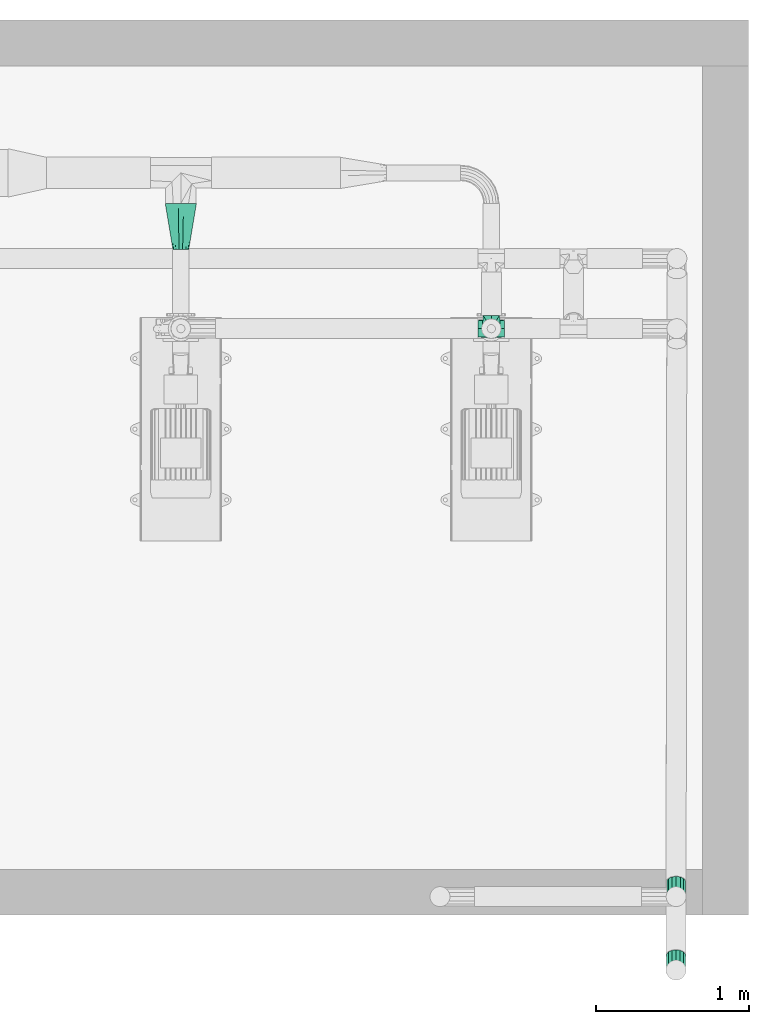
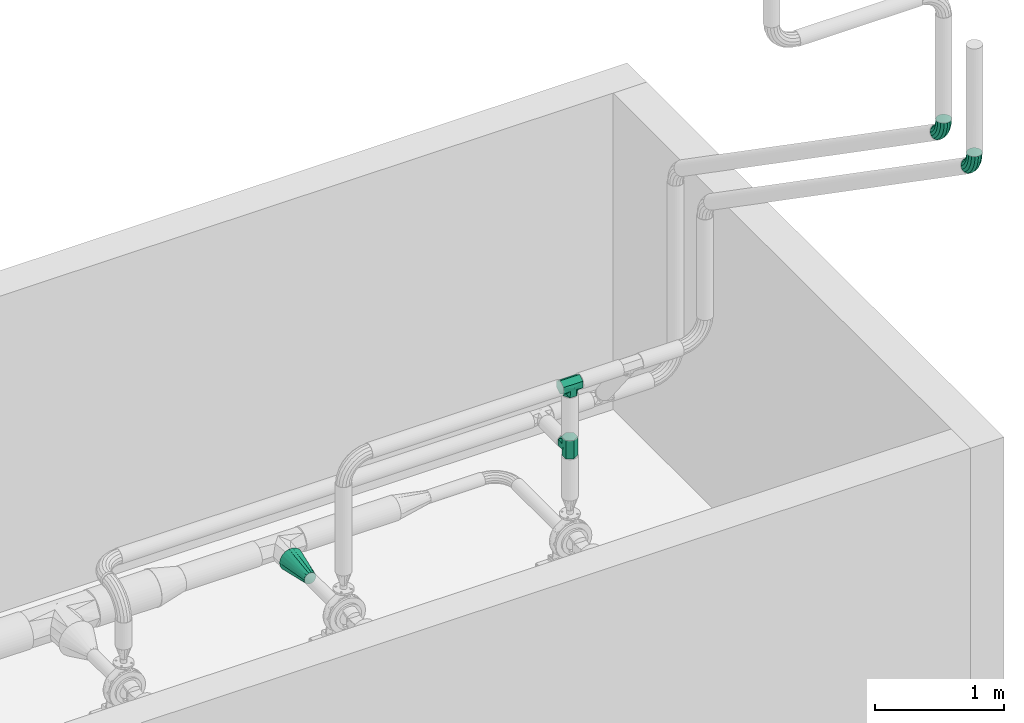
# One storey, part 9 of 12: 5 flow fittings.
"""IFC2X3 building model written with IfcOpenShell, lengths in millimetres."""

import ifcopenshell
import ifcopenshell.guid

model = None  # the IFC model being written
_history = None  # IfcOwnerHistory: only IFC2X3 demands one
_inside = {}  # id of a spatial element -> (the spatial element, [elements in it])
_under = {}  # id of a project, library or spatial element -> (it, [spatial elements below it])
_declared = {}  # id of a project -> (the project, [libraries it declares])
_typed = {}  # id of a type object -> (the type object, [elements of that type])
_made_of = {}  # id of a material, layer set ... -> (it, [elements and type objects made of it])


def new_model(schema):
    """Start an empty IFC model of exactly this schema.

    Asked for "IFC4X3", IfcOpenShell would pick the latest addendum, in which some entities
    have other attributes; the version numbers below select the first issue.
    IFC2X3 requires an IfcOwnerHistory on every rooted entity: one is made here for all.
    """
    global model, _history
    if schema == "IFC4X3":
        model = ifcopenshell.file(schema_version=(4, 3, 0, 0))
    else:
        model = ifcopenshell.file(schema=schema)
    _inside.clear()
    _under.clear()
    _declared.clear()
    _typed.clear()
    _made_of.clear()
    _history = None
    if model.schema == "IFC2X3":
        org = make("IfcOrganization", Name="unknown")
        user = make(
            "IfcPersonAndOrganization",
            ThePerson=make("IfcPerson", FamilyName="unknown"),
            TheOrganization=org,
        )
        app = make(
            "IfcApplication",
            ApplicationDeveloper=org,
            Version="unknown",
            ApplicationFullName="unknown",
            ApplicationIdentifier="unknown",
        )
        _history = make(
            "IfcOwnerHistory",
            OwningUser=user,
            OwningApplication=app,
            ChangeAction="ADDED",
            CreationDate=0,
        )
    return model


def make(cls, **values):
    """One entity of the class cls with the attributes given. An attribute that is None is left unset."""
    return model.create_entity(
        cls, **{name: value for name, value in values.items() if value is not None}
    )


def entity(cls, *values):
    """Any entity or typed value of the class cls, its attributes in the order of the schema. None: left unset."""
    e = model.create_entity(cls)
    for i, value in enumerate(values):
        if value is not None:
            e[i] = value
    return e


def rooted(cls, **values):
    """An entity with a GlobalId (a new one), such as an element, a storey or a relation."""
    return make(cls, GlobalId=ifcopenshell.guid.new(), OwnerHistory=_history, **values)


def si_unit(unit_type, name, prefix=None):
    """IfcSIUnit, for example si_unit("LENGTHUNIT", "METRE", prefix="MILLI")."""
    return make("IfcSIUnit", UnitType=unit_type, Prefix=prefix, Name=name)


def converted_unit(unit_type, name, factor, base, dimensions=None, offset=None):
    """IfcConversionBasedUnit, such as the inch: factor (a typed value) times the base unit."""
    return make(
        "IfcConversionBasedUnit"
        if offset is None
        else "IfcConversionBasedUnitWithOffset",
        ConversionOffset=offset,
        Dimensions=None
        if dimensions is None
        else entity("IfcDimensionalExponents", *dimensions),
        UnitType=unit_type,
        Name=name,
        ConversionFactor=make(
            "IfcMeasureWithUnit", ValueComponent=factor, UnitComponent=base
        ),
    )


def assignment(units):
    """IfcUnitAssignment: the units of a project."""
    return None if units is None else make("IfcUnitAssignment", Units=units)


def point(xyz):
    """IfcCartesianPoint."""
    return None if xyz is None else make("IfcCartesianPoint", Coordinates=xyz)


def direction(xyz):
    """IfcDirection."""
    return None if xyz is None else make("IfcDirection", DirectionRatios=xyz)


def frame(location, z_axis=None, x_axis=None):
    """IfcAxis2Placement3D, a coordinate frame: its origin and axes. An axis left out is left unset."""
    return make(
        "IfcAxis2Placement3D",
        Location=point(location),
        Axis=direction(z_axis),
        RefDirection=direction(x_axis),
    )


def origin():
    """The frame at (0, 0, 0) with its axes left unset."""
    return frame((0.0, 0.0, 0.0))


def place(relative_to, where):
    """IfcLocalPlacement: puts the frame where relative to a parent placement (None: the world)."""
    return make(
        "IfcLocalPlacement", PlacementRelTo=relative_to, RelativePlacement=where
    )


def context(
    kind, dimensions, precision=None, world=None, true_north=None, identifier=None
):
    """IfcGeometricRepresentationContext, for example the 3D "Model" context."""
    return make(
        "IfcGeometricRepresentationContext",
        ContextIdentifier=identifier,
        ContextType=kind,
        CoordinateSpaceDimension=dimensions,
        Precision=precision,
        WorldCoordinateSystem=world,
        TrueNorth=true_north,
    )


def subcontext(parent, identifier, kind, view, scale=None):
    """IfcGeometricRepresentationSubContext, for example "Body" below "Model"."""
    return make(
        "IfcGeometricRepresentationSubContext",
        ContextIdentifier=identifier,
        ContextType=kind,
        ParentContext=parent,
        TargetScale=scale,
        TargetView=view,
    )


def project(units=None, contexts=None):
    """IfcProject with its units and contexts."""
    return rooted(
        "IfcProject",
        Name="project",
        RepresentationContexts=contexts,
        UnitsInContext=assignment(units),
    )


def spatial(cls, under=None, at=None, **own):
    """A site, building, storey or space (cls), placed at a placement, below another one or the project."""
    s = rooted(cls, ObjectPlacement=at, **own)
    if under is not None:
        _under.setdefault(under.id(), (under, []))[1].append(s)
    return s


def faces_of(points, faces, orient=None, outer=None):
    """IfcFace entities. A face is a list of loops; a loop is a list of indices into points, from 0.

    orient and outer hold one flag for each loop. By default every Orientation is true, the
    first loop of a face is its IfcFaceOuterBound and the others are IfcFaceBound.
    """
    made = []
    for i, loops in enumerate(faces):
        bounds = []
        for j, loop in enumerate(loops):
            is_outer = j == 0 if outer is None else outer[i][j]
            bounds.append(
                make(
                    "IfcFaceOuterBound" if is_outer else "IfcFaceBound",
                    Bound=make("IfcPolyLoop", Polygon=[points[k] for k in loop]),
                    Orientation=True if orient is None else orient[i][j],
                )
            )
        made.append(make("IfcFace", Bounds=bounds))
    return made


def faceted_brep(points, faces, orient=None, outer=None, voids=None):
    """IfcFacetedBrep: a solid bounded by flat faces; with voids (closed shells), ...WithVoids."""
    shared = [point(p) for p in points]
    hull = make("IfcClosedShell", CfsFaces=faces_of(shared, faces, orient, outer))
    if voids is None:
        return make("IfcFacetedBrep", Outer=hull)
    return make(
        "IfcFacetedBrepWithVoids",
        Outer=hull,
        Voids=[
            make(cls, CfsFaces=faces_of(shared, fs, o, b)) for cls, fs, o, b in voids
        ],
    )


def shape(context_of_items, identifier, shape_type, items):
    """IfcShapeRepresentation: the items that make up one representation, for example the "Body"."""
    return make(
        "IfcShapeRepresentation",
        ContextOfItems=context_of_items,
        RepresentationIdentifier=identifier,
        RepresentationType=shape_type,
        Items=items,
    )


def source(mapping_origin, context_of_items, identifier, shape_type, items):
    """IfcRepresentationMap: a shape defined once, which mapped items show again and again."""
    return make(
        "IfcRepresentationMap",
        MappingOrigin=mapping_origin,
        MappedRepresentation=shape(context_of_items, identifier, shape_type, items),
    )


def transform(
    local_origin,
    x_axis=None,
    y_axis=None,
    z_axis=None,
    scale=None,
    scale2=None,
    scale3=None,
    uniform=True,
):
    """IfcCartesianTransformationOperator3D, or its non-uniform kind. x_axis, y_axis, z_axis: its Axis1, 2, 3."""
    if uniform:
        return make(
            "IfcCartesianTransformationOperator3D",
            Axis1=direction(x_axis),
            Axis2=direction(y_axis),
            LocalOrigin=point(local_origin),
            Scale=scale,
            Axis3=direction(z_axis),
        )
    return make(
        "IfcCartesianTransformationOperator3DnonUniform",
        Axis1=direction(x_axis),
        Axis2=direction(y_axis),
        LocalOrigin=point(local_origin),
        Scale=scale,
        Axis3=direction(z_axis),
        Scale2=scale2,
        Scale3=scale3,
    )


def mapped(mapping_source, mapping_target):
    """IfcMappedItem: shows the shape of a source again, moved by a transform."""
    return make(
        "IfcMappedItem", MappingSource=mapping_source, MappingTarget=mapping_target
    )


def material(Name=None, Category=None):
    """IfcMaterial."""
    return make("IfcMaterial", Name=Name, Category=Category)


def made_of(thing, what):
    """Note that an element or type object is made of a material, layer set ...; save() writes the relation."""
    if what is not None:
        _made_of.setdefault(what.id(), (what, []))[1].append(thing)
    return thing


def type_object(cls, material=None, **own):
    """A type object (cls), such as IfcWallType, which elements share."""
    return made_of(rooted(cls, **own), material)


def type_shapes(of_type, sources):
    """Give a type object the sources (RepresentationMaps) that its elements show as mapped items."""
    of_type.RepresentationMaps = sources


def element(
    cls,
    number,
    at=None,
    inside=None,
    cuts=None,
    type_object=None,
    material=None,
    context=None,
    identifier="Body",
    shape_type=None,
    held_by="IfcProductDefinitionShape",
    body=None,
    shapes=None,
    **own,
):
    """One element of the class cls, such as IfcWall. Its Tag is "e" and its number.

    at: its placement. inside: the storey or other place that contains it. cuts: it is an
    opening in that element (IfcRelVoidsElement). A single representation is given by context,
    identifier, shape_type and body (its items); several are given by shapes. held_by: the class
    of the entity that holds the representations. save() writes the other relations.
    """
    e = rooted(cls, Tag="e%d" % number, ObjectPlacement=at, **own)
    if body is not None:
        shapes = [shape(context, identifier, shape_type, body)]
    if shapes is not None:
        e.Representation = make(held_by, Representations=shapes)
    if inside is not None:
        _inside.setdefault(inside.id(), (inside, []))[1].append(e)
    if cuts is not None:
        rooted(
            "IfcRelVoidsElement", RelatingBuildingElement=cuts, RelatedOpeningElement=e
        )
    if type_object is not None:
        _typed.setdefault(type_object.id(), (type_object, []))[1].append(e)
    return made_of(e, material)


def aggregate(whole, parts):
    """IfcRelAggregates: a whole, such as a stair, and the parts it consists of."""
    return rooted("IfcRelAggregates", RelatingObject=whole, RelatedObjects=parts)


def save(model, path):
    """Write the relations noted so far, then the file.

    IfcRelAggregates (storeys below a building ...), IfcRelContainedInSpatialStructure (elements
    in a storey), IfcRelDefinesByType, IfcRelAssociatesMaterial and IfcRelDeclares: one each for
    every whole, place, type object, material and project.
    """
    for whole, parts in _under.values():
        aggregate(whole, parts)
    for where, things in _inside.values():
        rooted(
            "IfcRelContainedInSpatialStructure",
            RelatedElements=things,
            RelatingStructure=where,
        )
    for kind, things in _typed.values():
        rooted("IfcRelDefinesByType", RelatedObjects=things, RelatingType=kind)
    for what, things in _made_of.values():
        rooted("IfcRelAssociatesMaterial", RelatedObjects=things, RelatingMaterial=what)
    for by, libraries in _declared.values():
        rooted("IfcRelDeclares", RelatingContext=by, RelatedDefinitions=libraries)
    model.write(path)


model = new_model("IFC2X3")

# Units and contexts
model_context = context("Model", 3, precision=0.01, world=origin(), true_north=direction((6.123031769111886e-17, 1.0)))
body_context = subcontext(model_context, "Body", "Model", "MODEL_VIEW")
ifc_project = project(units=[si_unit("LENGTHUNIT", "METRE", prefix="MILLI"), converted_unit("PLANEANGLEUNIT", "DEGREE", entity("IfcPlaneAngleMeasure", 0.017453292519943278), si_unit("PLANEANGLEUNIT", "RADIAN"), dimensions=[0, 0, 0, 0, 0, 0, 0]), si_unit("AREAUNIT", "SQUARE_METRE")], contexts=[model_context])

# Site, building, storey
site_placement = place(None, frame((7776.576483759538, 118.3519876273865, 0.0)))
site = spatial("IfcSite", under=ifc_project, at=site_placement, Name="Default", CompositionType="ELEMENT")
building_placement = place(site_placement, origin())
building = spatial("IfcBuilding", under=site, at=building_placement, Name="Bygning (endres i Project Information)", CompositionType="ELEMENT")
storey_placement = place(building_placement, frame((0.0, 0.0, 11000.0)))
storey = spatial("IfcBuildingStorey", under=building, at=storey_placement, Name="Plan U2 - Arbeid", CompositionType="ELEMENT", Elevation=10999.999999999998)

# Flow fittings
ifc_material_1 = material(Name="DF_Material1")
pipe_fitting_type_1 = type_object("IfcPipeFittingType", Name="VA_prosess_rustfritt_vinklet_innsveising:VA_prosess_rustfritt_vinklet_innsveising", PredefinedType="NOTDEFINED", material=ifc_material_1)
shared_shape_1 = source(origin(), body_context, "Body", "Brep", [
    faceted_brep([(87.56249994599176, 50.785549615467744, -20.398276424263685), (87.56249994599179, 62.56250000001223, 0.0), (87.56249994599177, 50.78554913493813, 20.398277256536), (87.56249994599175, 31.281250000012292, 54.1807143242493), (87.56249994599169, 0.0, 54.180714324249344), (87.56249994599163, -31.28124999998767, 54.180714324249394), (87.56249994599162, -46.921874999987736, 27.090357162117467), (87.56249994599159, -62.562499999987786, 0.0), (87.56249994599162, -46.92187499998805, -27.090357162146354), (87.56249994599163, -31.281249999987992, -54.18071432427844), (87.56249994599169, 0.0, -54.18071432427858), (87.56249994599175, 31.28125000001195, -54.18071432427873), (-87.56613842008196, 31.281250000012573, 54.1807143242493), (-87.56613842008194, 46.92187500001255, 27.090357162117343), (-87.56613842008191, 62.56250000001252, 0.0), (-87.56613842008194, 46.9218750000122, -27.090357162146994), (-87.56613842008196, 31.281250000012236, -54.18071432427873), (-87.56613842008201, 0.0, -54.18071432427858), (-87.56613842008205, -31.281249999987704, -54.18071432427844), (-87.56613842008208, -46.92187499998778, -27.090357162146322), (-87.56613842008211, -62.562499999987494, 0.0), (-87.56613842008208, -46.92187499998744, 27.090357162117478), (-87.56613842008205, -31.28124999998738, 54.180714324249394), (-87.56613842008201, 0.0, 54.180714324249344), (-62.56509962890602, -62.56249999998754, 0.0), (62.55990047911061, -62.56249999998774, 0.0), (-53.37951237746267, -53.37729441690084, -32.63327821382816), (53.375393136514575, -53.37761101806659, -32.6327603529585), (-24.963889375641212, -24.962852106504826, -57.366561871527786), (0.0, 0.0, -62.56250000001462), (24.962160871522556, -24.96319811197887, -57.36641130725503), (-24.96388937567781, -24.962852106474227, 57.36656187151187), (0.0, 0.0, 62.56249999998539), (53.375393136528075, -53.377611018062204, 32.63276035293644), (24.962160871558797, -24.963198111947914, 57.36641130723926), (-53.37951237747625, -53.37729441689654, 32.633278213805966), (31.277611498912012, -87.5663993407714, -54.180714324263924), (46.91823648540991, -87.56704923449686, -27.090357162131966), (62.55886147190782, -87.56769912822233, 0.0), (46.91823648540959, -87.56704923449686, 27.090357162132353), (31.277611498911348, -87.5663993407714, 54.18071432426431), (-0.0036384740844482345, -87.56509955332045, 54.18071432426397), (-31.284888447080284, -87.56379976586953, 54.180714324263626), (-46.92551343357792, -87.56314987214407, 27.090357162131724), (-62.56613842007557, -87.5624999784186, 0.0), (-46.9255134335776, -87.56314987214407, -27.090357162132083), (-31.28488844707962, -87.56379976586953, -54.18071432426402), (-0.003638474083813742, -87.56509955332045, -54.18071432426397)], [[[0, 1, 2, 3, 4, 5, 6, 7, 8, 9, 10, 11]], [[12, 13, 14, 15, 16, 17, 18, 19, 20, 21, 22, 23]], [[20, 19, 24]], [[25, 8, 7]], [[26, 19, 18]], [[11, 16, 15, 14, 1, 0]], [[25, 27, 8]], [[24, 19, 26]], [[28, 17, 29]], [[26, 18, 28]], [[29, 11, 10]], [[18, 17, 28]], [[29, 16, 11]], [[17, 16, 29]], [[29, 10, 30]], [[9, 27, 30]], [[30, 10, 9]], [[27, 9, 8]], [[3, 2, 1, 14, 13, 12]], [[31, 23, 22]], [[32, 23, 31]], [[3, 32, 4]], [[25, 6, 33]], [[12, 32, 3]], [[4, 34, 5]], [[34, 4, 32]], [[32, 12, 23]], [[21, 20, 24]], [[7, 6, 25]], [[24, 35, 21]], [[35, 22, 21]], [[5, 33, 6]], [[5, 34, 33]], [[35, 31, 22]], [[36, 37, 38, 39, 40, 41, 42, 43, 44, 45, 46, 47]], [[43, 42, 35]], [[24, 43, 35]], [[24, 44, 43]], [[31, 35, 42]], [[31, 41, 34]], [[34, 41, 40]], [[39, 38, 25]], [[39, 25, 33]], [[33, 40, 39]], [[31, 34, 32]], [[33, 34, 40]], [[31, 42, 41]], [[37, 36, 27]], [[25, 37, 27]], [[25, 38, 37]], [[30, 27, 36]], [[47, 46, 28]], [[45, 44, 24]], [[28, 29, 30]], [[45, 24, 26]], [[26, 46, 45]], [[30, 36, 47]], [[26, 28, 46]], [[30, 47, 28]]]),
])
type_shapes(pipe_fitting_type_1, [shared_shape_1])
flow_fitting_1_placement = place(storey_placement, frame((30594.0264626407, 32579.646189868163, 1764.5645713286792), z_axis=(5.517633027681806e-06, -1.0, 3.825626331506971e-06), x_axis=(1.0, 5.517633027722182e-06, 0.0)))
element("IfcFlowFitting", 1, at=flow_fitting_1_placement, inside=storey, type_object=pipe_fitting_type_1, material=ifc_material_1, Name="VA_prosess_rustfritt_vinklet_innsveising:VA_prosess_rustfritt_vinklet_innsveising", ObjectType="VA_prosess_rustfritt_vinklet_innsveising:VA_prosess_rustfritt_vinklet_innsveising", context=body_context, shape_type="MappedRepresentation", body=[
    mapped(shared_shape_1, transform((0.0, 0.0, 0.0), scale=1.0)),
])
pipe_fitting_type_2 = type_object("IfcPipeFittingType", Name="VA_prosess_rustfritt_vinklet_innsveising:VA_prosess_rustfritt_vinklet_innsveising", PredefinedType="NOTDEFINED", material=ifc_material_1)
shared_shape_2 = source(origin(), body_context, "Body", "Brep", [
    faceted_brep([(87.56297965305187, 50.7853371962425, -20.398644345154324), (87.56297965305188, 62.56250000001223, 0.0), (87.56297965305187, 50.78533671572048, 20.398645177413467), (87.56297965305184, 31.281250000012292, 54.1807143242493), (87.56297965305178, 0.0, 54.180714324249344), (87.56297965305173, -31.28124999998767, 54.180714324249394), (87.5629796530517, -46.92187499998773, 27.090357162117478), (87.56297965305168, -62.562499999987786, 0.0), (87.5629796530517, -46.92187499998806, -27.09035716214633), (87.56297965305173, -31.281249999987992, -54.18071432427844), (87.56297965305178, 0.0, -54.18071432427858), (87.56297965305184, 31.28125000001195, -54.18071432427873), (-87.56249999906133, 31.281250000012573, 54.1807143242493), (-87.56249999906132, 46.92187500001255, 27.090357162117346), (-87.56249999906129, 62.56250000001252, 0.0), (-87.56249999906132, 46.92187500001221, -27.090357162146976), (-87.56249999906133, 31.281250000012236, -54.18071432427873), (-87.56249999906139, 0.0, -54.18071432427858), (-87.56249999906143, -31.281249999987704, -54.18071432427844), (-87.56249999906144, -46.92187499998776, -27.090357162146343), (-87.56249999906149, -62.562499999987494, 0.0), (-87.56249999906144, -46.921874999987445, 27.090357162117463), (-87.56249999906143, -31.28124999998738, 54.180714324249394), (-87.56249999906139, 0.0, 54.180714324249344), (-62.56215729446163, -62.56249999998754, 0.0), (62.562842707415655, -62.56249999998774, 0.0), (-53.37718119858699, -53.37747359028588, -32.632985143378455), (53.37772424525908, -53.377431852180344, -32.63305341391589), (-24.962911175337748, -24.963047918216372, -57.3664766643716), (0.0, 0.0, -62.56250000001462), (24.963139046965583, -24.9630023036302, -57.36649651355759), (-24.96291117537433, -24.96304791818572, 57.3664766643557), (0.0, 0.0, 62.56249999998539), (53.37772424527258, -53.37743185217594, 32.63305341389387), (24.963139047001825, -24.96300230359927, 57.36649651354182), (-53.37718119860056, -53.37747359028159, 32.632985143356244), (0.0004796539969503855, -87.56284270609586, -54.18071432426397), (31.28172965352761, -87.56267135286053, -54.180714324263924), (46.92235465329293, -87.56258567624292, -27.090357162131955), (62.562979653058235, -87.56249999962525, 0.0), (46.92235465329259, -87.56258567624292, 27.090357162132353), (31.281729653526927, -87.56267135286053, 54.18071432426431), (0.0004796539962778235, -87.56284270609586, 54.18071432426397), (-31.28077034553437, -87.56301405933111, 54.180714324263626), (-46.921395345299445, -87.56309973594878, 27.090357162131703), (-62.56202034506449, -87.5631854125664, 0.0), (-46.921395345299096, -87.56309973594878, -27.090357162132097), (-31.280770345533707, -87.56301405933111, -54.18071432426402)], [[[0, 1, 2, 3, 4, 5, 6, 7, 8, 9, 10, 11]], [[12, 13, 14, 15, 16, 17, 18, 19, 20, 21, 22, 23]], [[20, 19, 24]], [[25, 8, 7]], [[26, 19, 18]], [[11, 16, 15, 14, 1, 0]], [[25, 27, 8]], [[28, 17, 29]], [[24, 19, 26]], [[26, 18, 28]], [[29, 11, 10]], [[18, 17, 28]], [[29, 16, 11]], [[17, 16, 29]], [[29, 10, 30]], [[9, 27, 30]], [[30, 10, 9]], [[27, 9, 8]], [[3, 2, 1, 14, 13, 12]], [[31, 23, 22]], [[32, 23, 31]], [[3, 32, 4]], [[25, 6, 33]], [[12, 32, 3]], [[4, 34, 5]], [[34, 4, 32]], [[32, 12, 23]], [[21, 20, 24]], [[7, 6, 25]], [[24, 35, 21]], [[5, 33, 6]], [[5, 34, 33]], [[35, 22, 21]], [[31, 22, 35]], [[36, 37, 38, 39, 40, 41, 42, 43, 44, 45, 46, 47]], [[44, 43, 35]], [[24, 44, 35]], [[24, 45, 44]], [[31, 35, 43]], [[34, 32, 31]], [[40, 39, 25]], [[40, 25, 33]], [[33, 41, 40]], [[31, 43, 42]], [[33, 34, 41]], [[42, 41, 34]], [[31, 42, 34]], [[38, 37, 27]], [[25, 38, 27]], [[25, 39, 38]], [[30, 27, 37]], [[30, 37, 36]], [[28, 36, 47]], [[46, 45, 24]], [[30, 36, 28]], [[46, 24, 26]], [[26, 47, 46]], [[30, 28, 29]], [[26, 28, 47]]]),
])
type_shapes(pipe_fitting_type_2, [shared_shape_2])
flow_fitting_2_placement = place(storey_placement, frame((30594.008996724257, 32579.6438453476, 1180.6961148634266), z_axis=(1.0, 0.0, -2.7602778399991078e-05), x_axis=(2.7602778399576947e-05, 5.4778257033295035e-06, 1.0)))
element("IfcFlowFitting", 2, at=flow_fitting_2_placement, inside=storey, type_object=pipe_fitting_type_2, material=ifc_material_1, Name="VA_prosess_rustfritt_vinklet_innsveising:VA_prosess_rustfritt_vinklet_innsveising", ObjectType="VA_prosess_rustfritt_vinklet_innsveising:VA_prosess_rustfritt_vinklet_innsveising", context=body_context, shape_type="MappedRepresentation", body=[
    mapped(shared_shape_2, transform((0.0, 0.0, 0.0), scale=1.0)),
])
ifc_material_2 = material(Name="SS 2343 Rustfritt stål, prosessrør, generisk")
pipe_fitting_type_3 = type_object("IfcPipeFittingType", Name="Overganger, konsentriske, rustfritt EN 1,4307304L:Standard", PredefinedType="NOTDEFINED", material=ifc_material_2)
shared_shape_3 = source(origin(), body_context, "Body", "Brep", [
    faceted_brep([(300.0, -102.0, 0.0), (300.0, -95.84864732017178, -34.88605461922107), (300.0, -78.13653319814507, -65.56433618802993), (300.0, -51.0, -88.3345911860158), (300.0, -17.71211412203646, -100.45039080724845), (300.0, 17.712114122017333, -100.45039080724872), (300.0, 51.0, -88.33459118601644), (300.0, 78.1365331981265, -65.56433618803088), (300.0, 95.8486473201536, -34.88605461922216), (300.0, 102.0, 0.0), (300.0, 95.84864732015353, 34.88605461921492), (300.0, 78.13653319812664, 65.56433618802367), (300.0, 51.0, 88.3345911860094), (300.0, 17.712114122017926, 100.45039080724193), (300.0, -17.712114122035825, 100.45039080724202), (300.0, -51.0, 88.33459118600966), (300.0, -78.13653319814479, 65.56433618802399), (300.0, -95.84864732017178, 34.886054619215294), (0.0, -46.850381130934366, -22.561954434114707), (0.0, -49.42519056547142, -11.2809772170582), (0.0, -52.0, 0.0), (0.0, -49.425190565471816, 11.280977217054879), (0.0, -46.85038113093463, 22.56195443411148), (0.0, -39.63592541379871, 31.60859576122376), (0.0, -32.4214696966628, 40.65523708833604), (0.0, -21.996279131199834, 45.67574426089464), (0.0, -11.571088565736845, 50.69625143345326), (0.0, 0.0, 50.69625143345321), (0.0, 11.571088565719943, 50.69625143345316), (0.0, 21.996279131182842, 45.67574426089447), (0.0, 32.42146969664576, 40.65523708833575), (0.0, 39.63592541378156, 31.608595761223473), (0.0, 46.85038113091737, 22.561954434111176), (0.0, 49.425190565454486, 11.28097721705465), (0.0, 52.0, 0.0), (0.0, 49.42519056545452, -11.280977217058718), (0.0, 46.85038113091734, -22.56195443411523), (0.0, 39.63592541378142, -31.60859576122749), (0.0, 32.42146969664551, -40.655237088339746), (0.0, 21.99627913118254, -45.67574426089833), (0.0, 11.571088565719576, -50.6962514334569), (0.0, 0.0, -50.69625143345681), (0.0, -11.571088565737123, -50.696251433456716), (0.0, -21.996279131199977, -45.67574426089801), (0.0, -32.421469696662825, -40.65523708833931), (0.0, -39.635925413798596, -31.608595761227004)], [[[0, 1, 2, 3, 4, 5, 6, 7, 8, 9, 10, 11, 12, 13, 14, 15, 16, 17]], [[18, 19, 20, 21, 22, 23, 24, 25, 26, 27, 28, 29, 30, 31, 32, 33, 34, 35, 36, 37, 38, 39, 40, 41, 42, 43, 44, 45]], [[0, 19, 1]], [[4, 43, 42]], [[19, 0, 20]], [[19, 18, 1]], [[2, 18, 45, 44]], [[18, 2, 1]], [[3, 44, 43]], [[44, 3, 2]], [[4, 42, 41, 40, 5]], [[7, 38, 37, 36]], [[39, 5, 40]], [[43, 4, 3]], [[5, 39, 6]], [[9, 35, 34]], [[39, 38, 6]], [[8, 36, 35]], [[7, 6, 38]], [[8, 7, 36]], [[8, 35, 9]], [[9, 33, 10]], [[13, 29, 28]], [[33, 9, 34]], [[33, 32, 10]], [[11, 32, 31, 30]], [[32, 11, 10]], [[12, 30, 29]], [[30, 12, 11]], [[13, 28, 27, 26, 14]], [[16, 24, 23, 22]], [[25, 14, 26]], [[29, 13, 12]], [[14, 25, 15]], [[0, 21, 20]], [[25, 24, 15]], [[17, 22, 21]], [[16, 15, 24]], [[17, 16, 22]], [[17, 21, 0]]]),
])
type_shapes(pipe_fitting_type_3, [shared_shape_3])
flow_fitting_3_placement = place(storey_placement, frame((28564.001374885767, 33097.801662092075, 320.2091490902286), z_axis=(0.0, 0.0, 1.0), x_axis=(0.0, 1.0, 0.0)))
element("IfcFlowFitting", 3, at=flow_fitting_3_placement, inside=storey, type_object=pipe_fitting_type_3, material=ifc_material_2, Name="Overganger, konsentriske, rustfritt EN 1,4307304L:Standard", ObjectType="Overganger, konsentriske, rustfritt EN 1,4307304L:Standard", context=body_context, shape_type="MappedRepresentation", body=[
    mapped(shared_shape_3, transform((0.0, 0.0, 0.0), scale=1.0)),
])
pipe_fitting_type_4 = type_object("IfcPipeFittingType", Name="VA_prosess_rustfritt_bend_D+100:VA_prosess_rustfritt_bend_D+100", PredefinedType="NOTDEFINED", material=ifc_material_2)
shared_shape_4 = source(origin(), body_context, "Body", "Brep", [
    faceted_brep([(-62.685421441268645, -57.16513222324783, 0.0), (-63.872243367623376, -51.09053820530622, 27.117733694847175), (-117.81334682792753, -56.310554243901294, 27.117733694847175), (-117.81334682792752, -62.50000000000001, 0.0), (-67.19764450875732, -34.069903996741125, 48.86446765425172), (-117.81334682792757, -38.968112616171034, 48.86446765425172), (-72.0029883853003, -9.474374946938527, 60.93299451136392), (-117.8133468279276, -13.907558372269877, 60.93299451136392), (-77.33651770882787, 17.8246027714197, 60.93299451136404), (-117.81334682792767, 13.90755837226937, 60.93299451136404), (-82.14186158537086, 42.42013182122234, 48.86446765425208), (-117.8133468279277, 38.96811261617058, 48.86446765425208), (-85.46726272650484, 59.44076602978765, 27.117733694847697), (-117.81334682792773, 56.31055424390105, 27.117733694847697), (-86.65408465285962, 65.51536004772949, 0.0), (-117.81334682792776, 62.50000000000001, 0.0), (-85.46726272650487, 59.4407660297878, -27.117733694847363), (-117.81334682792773, 56.31055424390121, -27.117733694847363), (-82.14186158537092, 42.42013182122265, -48.86446765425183), (-117.8133468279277, 38.96811261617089, -48.86446765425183), (-77.33651770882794, 17.824602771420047, -60.932994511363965), (-117.81334682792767, 13.90755837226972, -60.932994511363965), (-72.00298838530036, -9.474374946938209, -60.932994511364), (-117.8133468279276, -13.907558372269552, -60.932994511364), (-67.19764450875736, -34.069903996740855, -48.864467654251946), (-117.81334682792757, -38.96811261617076, -48.864467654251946), (-63.872243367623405, -51.09053820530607, -27.11773369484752), (-117.81334682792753, -56.31055424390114, -27.11773369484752), (-9.6034104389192, -41.35851716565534, 0.0), (-11.933008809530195, -35.62421597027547, 27.117733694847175), (-18.46039839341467, -19.557061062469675, 48.86446765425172), (-27.892749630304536, 3.660650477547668, 60.93299451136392), (-38.36186967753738, 29.430366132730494, 60.93299451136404), (-47.794220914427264, 52.64807767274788, 48.86446765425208), (-54.321610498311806, 68.71523258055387, 27.117733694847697), (-56.6512088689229, 74.44953377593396, 0.0), (-54.32161049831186, 68.71523258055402, -27.117733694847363), (-47.794220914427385, 52.64807767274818, -48.86446765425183), (-38.36186967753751, 29.430366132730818, -60.932994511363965), (-27.89274963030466, 3.6606504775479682, -60.932994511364), (-18.460398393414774, -19.55706106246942, -48.864467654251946), (-11.933008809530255, -35.62421597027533, -27.11773369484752), (39.462700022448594, -15.666771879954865, 0.0), (36.076781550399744, -10.485575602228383, 27.117733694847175), (26.589648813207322, 4.031813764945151, 48.86446765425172), (12.880344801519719, 25.010049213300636, 60.93299451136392), (-2.3358346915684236, 48.294133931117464, 60.93299451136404), (-16.045138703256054, 69.27236937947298, 48.86446765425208), (-25.53227144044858, 83.78975874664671, 27.117733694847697), (-28.918189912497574, 88.97095502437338, 0.0), (-25.532271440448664, 83.78975874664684, -27.117733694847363), (-16.045138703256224, 69.27236937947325, -48.86446765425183), (-2.3358346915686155, 48.29413393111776, -60.932994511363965), (12.880344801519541, 25.010049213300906, -60.932994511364), (26.589648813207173, 4.031813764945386, -48.864467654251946), (36.07678155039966, -10.485575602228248, -27.11773369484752), (82.69196238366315, 18.956628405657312, 0.0), (78.37538243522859, 23.392434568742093, 27.117733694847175), (66.28059418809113, 35.82128724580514, 48.86446765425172), (48.80311878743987, 53.78149973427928, 60.93299451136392), (29.404584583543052, 73.71583168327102, 60.93299451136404), (11.927109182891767, 91.6760441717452, 48.86446765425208), (-0.16767906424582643, 104.10489684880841, 27.117733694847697), (-4.4842590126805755, 108.54070301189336, 0.0), (-0.167679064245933, 104.10489684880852, -27.117733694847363), (11.92710918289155, 91.67604417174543, -48.86446765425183), (29.40458458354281, 73.71583168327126, -60.932994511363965), (48.803118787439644, 53.781499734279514, -60.932994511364), (66.28059418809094, 35.82128724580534, -48.864467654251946), (78.37538243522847, 23.392434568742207, -27.11773369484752), (118.480046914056, 61.226735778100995, 0.0), (113.39300293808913, 64.75252963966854, 27.117733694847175), (99.13942245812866, 74.63158450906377, 48.86446765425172), (78.54240189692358, 88.9072324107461, 60.93299451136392), (55.68143378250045, 104.7520061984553, 60.93299451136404), (35.08441322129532, 119.02765410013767, 48.86446765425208), (20.830832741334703, 128.906708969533, 27.117733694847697), (15.74378876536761, 132.43250283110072, 0.0), (20.830832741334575, 128.90670896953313, -27.117733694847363), (35.084413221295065, 119.02765410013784, -48.86446765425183), (55.68143378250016, 104.7520061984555, -60.932994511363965), (78.54240189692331, 88.90723241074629, -60.932994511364), (99.13942245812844, 74.63158450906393, -48.864467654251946), (113.39300293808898, 64.75252963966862, -27.11773369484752)], [[[0, 1, 2, 3]], [[1, 4, 5, 2]], [[4, 6, 7, 5]], [[6, 8, 9, 7]], [[8, 10, 11, 9]], [[10, 12, 13, 11]], [[12, 14, 15, 13]], [[14, 16, 17, 15]], [[16, 18, 19, 17]], [[18, 20, 21, 19]], [[20, 22, 23, 21]], [[22, 24, 25, 23]], [[24, 26, 27, 25]], [[26, 0, 3, 27]], [[28, 29, 1, 0]], [[29, 30, 4, 1]], [[30, 31, 6, 4]], [[31, 32, 8, 6]], [[32, 33, 10, 8]], [[33, 34, 12, 10]], [[34, 35, 14, 12]], [[35, 36, 16, 14]], [[36, 37, 18, 16]], [[37, 38, 20, 18]], [[38, 39, 22, 20]], [[39, 40, 24, 22]], [[40, 41, 26, 24]], [[41, 28, 0, 26]], [[42, 43, 29, 28]], [[43, 44, 30, 29]], [[44, 45, 31, 30]], [[45, 46, 32, 31]], [[46, 47, 33, 32]], [[47, 48, 34, 33]], [[48, 49, 35, 34]], [[49, 50, 36, 35]], [[50, 51, 37, 36]], [[51, 52, 38, 37]], [[52, 53, 39, 38]], [[53, 54, 40, 39]], [[54, 55, 41, 40]], [[55, 42, 28, 41]], [[56, 57, 43, 42]], [[57, 58, 44, 43]], [[58, 59, 45, 44]], [[59, 60, 46, 45]], [[60, 61, 47, 46]], [[61, 62, 48, 47]], [[62, 63, 49, 48]], [[63, 64, 50, 49]], [[64, 65, 51, 50]], [[65, 66, 52, 51]], [[66, 67, 53, 52]], [[67, 68, 54, 53]], [[68, 69, 55, 54]], [[69, 56, 42, 55]], [[70, 71, 57, 56]], [[71, 72, 58, 57]], [[72, 73, 59, 58]], [[73, 74, 60, 59]], [[74, 75, 61, 60]], [[75, 76, 62, 61]], [[76, 77, 63, 62]], [[77, 78, 64, 63]], [[78, 79, 65, 64]], [[79, 80, 66, 65]], [[80, 81, 67, 66]], [[81, 82, 68, 67]], [[82, 83, 69, 68]], [[83, 70, 56, 69]], [[3, 2, 5, 7, 9, 11, 13, 15, 17, 19, 21, 23, 25, 27]], [[83, 82, 81, 80, 79, 78, 77, 76, 75, 74, 73, 72, 71, 70]]]),
])
type_shapes(pipe_fitting_type_4, [shared_shape_4])
flow_fitting_4_placement = place(storey_placement, frame((31802.17789068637, 28865.823841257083, 5994.5000003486), z_axis=(0.999999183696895, -0.0012773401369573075, -3.17445797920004e-05), x_axis=(-3.1744659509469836e-05, -4.2134587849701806e-08, -1.0)))
element("IfcFlowFitting", 4, at=flow_fitting_4_placement, inside=storey, type_object=pipe_fitting_type_4, material=ifc_material_2, Name="VA_prosess_rustfritt_bend_D+100:VA_prosess_rustfritt_bend_D+100", ObjectType="VA_prosess_rustfritt_bend_D+100:VA_prosess_rustfritt_bend_D+100", context=body_context, shape_type="MappedRepresentation", body=[
    mapped(shared_shape_4, transform((0.0, 0.0, 0.0), scale=1.0)),
])
pipe_fitting_type_5 = type_object("IfcPipeFittingType", Name="VA_prosess_rustfritt_bend_D+100:VA_prosess_rustfritt_bend_D+100", PredefinedType="NOTDEFINED", material=ifc_material_2)
shared_shape_5 = source(origin(), body_context, "Body", "Brep", [
    faceted_brep([(-62.68545029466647, -57.1651285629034, 0.0), (-63.87227262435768, -51.09053462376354, 27.117733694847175), (-117.81339441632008, -56.310554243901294, 27.117733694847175), (-117.81339441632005, -62.50000000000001, 0.0), (-67.19767489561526, -34.069900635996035, 48.86446765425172), (-117.81339441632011, -38.968112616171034, 48.86446765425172), (-72.00302040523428, -9.474371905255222, 60.93299451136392), (-117.81339441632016, -13.907558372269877, 60.93299451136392), (-77.33655154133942, 17.824605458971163, 60.93299451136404), (-117.8133944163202, 13.90755837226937, 60.93299451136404), (-82.14189705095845, 42.420134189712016, 48.86446765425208), (-117.81339441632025, 38.96811261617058, 48.86446765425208), (-85.46729932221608, 59.440768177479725, 27.117733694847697), (-117.81339441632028, 56.31055424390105, 27.117733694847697), (-86.65412165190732, 65.51536211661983, 0.0), (-117.81339441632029, 62.50000000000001, 0.0), (-85.4672993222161, 59.44076817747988, -27.117733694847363), (-117.81339441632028, 56.31055424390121, -27.117733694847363), (-82.1418970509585, 42.42013418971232, -48.86446765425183), (-117.81339441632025, 38.96811261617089, -48.86446765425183), (-77.33655154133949, 17.824605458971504, -60.932994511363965), (-117.8133944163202, 13.90755837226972, -60.932994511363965), (-72.00302040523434, -9.474371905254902, -60.932994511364), (-117.81339441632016, -13.907558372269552, -60.932994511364), (-67.19767489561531, -34.069900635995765, -48.864467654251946), (-117.81339441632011, -38.96811261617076, -48.864467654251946), (-63.872272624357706, -51.09053462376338, -27.11773369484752), (-117.81339441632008, -56.31055424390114, -27.11773369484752), (-9.603422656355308, -41.358502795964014, 0.0), (-11.9330217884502, -35.62420190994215, 27.117733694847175), (-18.46041350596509, -19.55704786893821, 48.86446765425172), (-27.892767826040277, 3.660662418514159, 60.93299451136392), (-38.36189129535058, 29.43037668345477, 60.93299451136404), (-47.79424561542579, 52.64808697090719, 48.86446765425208), (-54.32163733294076, 68.71524101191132, 27.117733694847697), (-56.65123646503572, 74.44954189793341, 0.0), (-54.32163733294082, 68.71524101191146, -27.117733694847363), (-47.79424561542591, 52.64808697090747, -48.86446765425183), (-38.361891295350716, 29.430376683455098, -60.932994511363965), (-27.892767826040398, 3.6606624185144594, -60.932994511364), (-18.460413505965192, -19.557047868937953, -48.864467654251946), (-11.93302178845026, -35.62420190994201, -27.11773369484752), (39.46270037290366, -15.66674055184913, 0.0), (36.076780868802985, -10.485544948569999, 27.117733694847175), (26.589645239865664, 4.031842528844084, 48.86446765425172), (12.880337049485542, 25.01007524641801, 60.93299451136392), (-2.33584708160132, 48.29415693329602, 60.93299451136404), (-16.04515527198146, 69.27238965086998, 48.86446765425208), (-25.532290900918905, 83.78977712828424, 27.117733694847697), (-28.918210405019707, 88.97097273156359, 0.0), (-25.53229090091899, 83.78977712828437, -27.117733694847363), (-16.04515527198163, 69.27238965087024, -48.86446765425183), (-2.335847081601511, 48.29415693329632, -60.932994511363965), (12.880337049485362, 25.010075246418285, -60.932994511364), (26.589645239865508, 4.031842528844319, -48.864467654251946), (36.0767808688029, -10.48554494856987, -27.11773369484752), (82.69196951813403, 18.95668165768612, 0.0), (78.37538839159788, 23.392486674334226, 27.117733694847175), (66.28059684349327, 35.8213361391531, 48.86446765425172), (48.80311667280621, 53.78154398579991, 60.93299451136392), (29.40457717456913, 73.71587078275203, 60.93299451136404), (11.927097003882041, 91.67607862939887, 48.86446765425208), (-0.16769454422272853, 104.1049280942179, 27.117733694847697), (-4.484275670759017, 108.54073311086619, 0.0), (-0.16769454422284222, 104.10492809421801, -27.117733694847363), (11.927097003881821, 91.6760786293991, -48.86446765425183), (29.40457717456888, 73.71587078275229, -60.932994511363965), (48.803116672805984, 53.78154398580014, -60.932994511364), (66.28059684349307, 35.821336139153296, -48.864467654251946), (78.37538839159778, 23.392486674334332, -27.11773369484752), (118.48005369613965, 61.22681422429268, 0.0), (113.39300854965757, 64.75260639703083, 27.117733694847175), (99.13942478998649, 74.6316565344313, 48.86446765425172), (78.54239948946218, 88.90729759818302, 60.93299451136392), (55.68142611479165, 104.75206379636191, 60.93299451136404), (35.084400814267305, 119.02770486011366, 48.86446765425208), (20.830817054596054, 128.90675499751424, 27.117733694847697), (15.743771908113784, 132.43254717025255, 0.0), (20.830817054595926, 128.90675499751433, -27.117733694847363), (35.08440081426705, 119.02770486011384, -48.86446765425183), (55.68142611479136, 104.75206379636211, -60.932994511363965), (78.54239948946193, 88.9072975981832, -60.932994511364), (99.13942478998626, 74.63165653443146, -48.864467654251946), (113.39300854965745, 64.75260639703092, -27.11773369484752)], [[[0, 1, 2, 3]], [[1, 4, 5, 2]], [[4, 6, 7, 5]], [[6, 8, 9, 7]], [[8, 10, 11, 9]], [[10, 12, 13, 11]], [[12, 14, 15, 13]], [[14, 16, 17, 15]], [[16, 18, 19, 17]], [[18, 20, 21, 19]], [[20, 22, 23, 21]], [[22, 24, 25, 23]], [[24, 26, 27, 25]], [[26, 0, 3, 27]], [[28, 29, 1, 0]], [[29, 30, 4, 1]], [[30, 31, 6, 4]], [[31, 32, 8, 6]], [[32, 33, 10, 8]], [[33, 34, 12, 10]], [[34, 35, 14, 12]], [[35, 36, 16, 14]], [[36, 37, 18, 16]], [[37, 38, 20, 18]], [[38, 39, 22, 20]], [[39, 40, 24, 22]], [[40, 41, 26, 24]], [[41, 28, 0, 26]], [[42, 43, 29, 28]], [[43, 44, 30, 29]], [[44, 45, 31, 30]], [[45, 46, 32, 31]], [[46, 47, 33, 32]], [[47, 48, 34, 33]], [[48, 49, 35, 34]], [[49, 50, 36, 35]], [[50, 51, 37, 36]], [[51, 52, 38, 37]], [[52, 53, 39, 38]], [[53, 54, 40, 39]], [[54, 55, 41, 40]], [[55, 42, 28, 41]], [[56, 57, 43, 42]], [[57, 58, 44, 43]], [[58, 59, 45, 44]], [[59, 60, 46, 45]], [[60, 61, 47, 46]], [[61, 62, 48, 47]], [[62, 63, 49, 48]], [[63, 64, 50, 49]], [[64, 65, 51, 50]], [[65, 66, 52, 51]], [[66, 67, 53, 52]], [[67, 68, 54, 53]], [[68, 69, 55, 54]], [[69, 56, 42, 55]], [[70, 71, 57, 56]], [[71, 72, 58, 57]], [[72, 73, 59, 58]], [[73, 74, 60, 59]], [[74, 75, 61, 60]], [[75, 76, 62, 61]], [[76, 77, 63, 62]], [[77, 78, 64, 63]], [[78, 79, 65, 64]], [[79, 80, 66, 65]], [[80, 81, 67, 66]], [[81, 82, 68, 67]], [[82, 83, 69, 68]], [[83, 70, 56, 69]], [[3, 2, 5, 7, 9, 11, 13, 15, 17, 19, 21, 23, 25, 27]], [[83, 82, 81, 80, 79, 78, 77, 76, 75, 74, 73, 72, 71, 70]]]),
])
type_shapes(pipe_fitting_type_5, [shared_shape_5])
flow_fitting_5_placement = place(storey_placement, frame((31801.36283586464, 28385.82390301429, 5967.908932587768), z_axis=(-0.9999987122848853, 0.0015581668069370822, 0.0003841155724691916), x_axis=(-0.0010618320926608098, -0.821889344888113, 0.5696461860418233)))
element("IfcFlowFitting", 5, at=flow_fitting_5_placement, inside=storey, type_object=pipe_fitting_type_5, material=ifc_material_2, Name="VA_prosess_rustfritt_bend_D+100:VA_prosess_rustfritt_bend_D+100", ObjectType="VA_prosess_rustfritt_bend_D+100:VA_prosess_rustfritt_bend_D+100", context=body_context, shape_type="MappedRepresentation", body=[
    mapped(shared_shape_5, transform((0.0, 0.0, 0.0), scale=1.0)),
])

save(model, "model.ifc")
